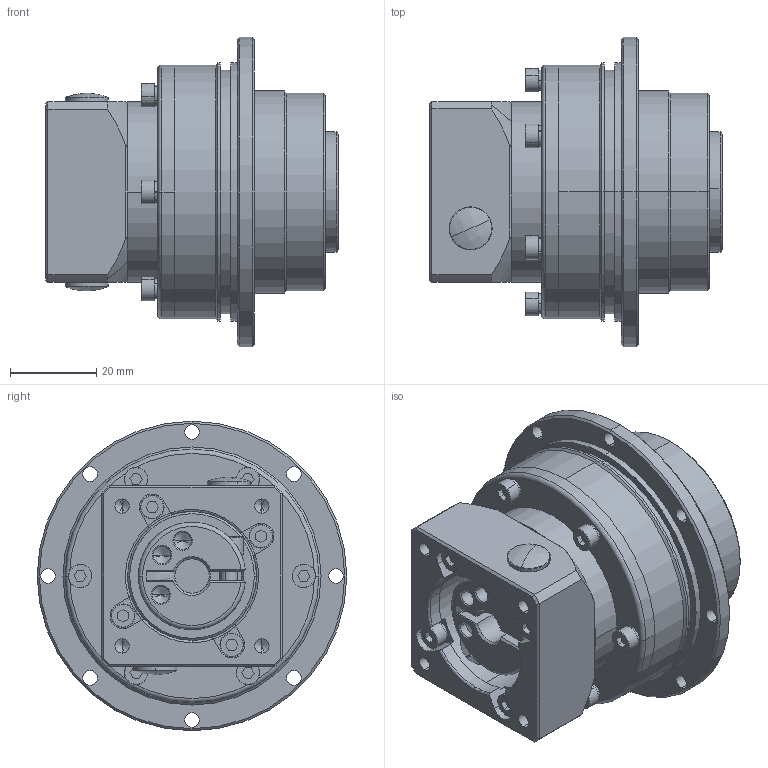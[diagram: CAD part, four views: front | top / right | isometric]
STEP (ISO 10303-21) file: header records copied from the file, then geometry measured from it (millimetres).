
FILE_DESCRIPTION (( 'STEP AP203' ), '1' );
FILE_NAME ('AD047L1-OP2-8-25-30-46-M4.STEP', '2020-03-10T07:34:12', ( 'dell' ), ( '' ), 'SwSTEP 2.0', 'SolidWorks 2018', '' );
FILE_SCHEMA (( 'CONFIG_CONTROL_DESIGN' ));
Length unit declared in the file: millimetre
Products named in the file (1): AD047L1-OP2-8-25-30-46-M4
Bounding box: 68 x 72 x 72 mm (x, y, z)
Volume: 78510.2 mm3; surface area: 48524.3 mm2
Topology: 31 solids, 31 shells, 824 faces, 2200 edges, 1376 vertices
Faces by surface type: cylinder 293, plane 241, cone 112, torus 108, sphere 66, bspline 4
Entity records: 26566 total; most frequent: CARTESIAN_POINT 6151, DIRECTION 4524, ORIENTED_EDGE 4108, EDGE_CURVE 2054, AXIS2_PLACEMENT_3D 1885, VERTEX_POINT 1320, CIRCLE 1064, EDGE_LOOP 966
